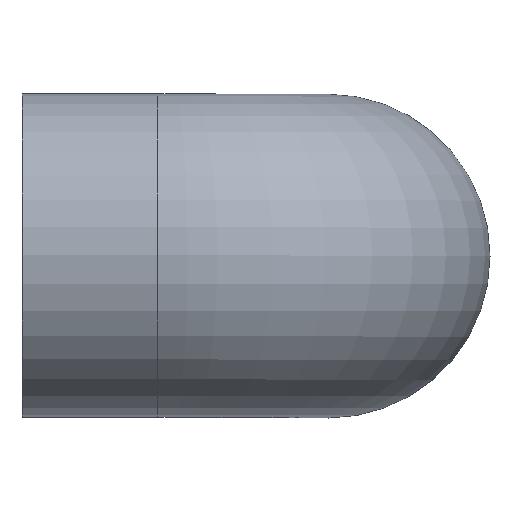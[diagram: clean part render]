
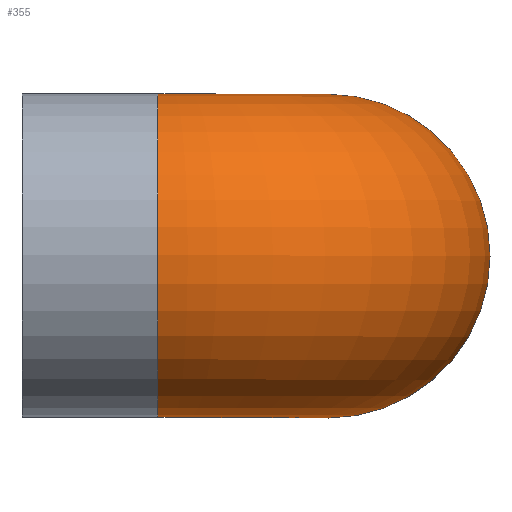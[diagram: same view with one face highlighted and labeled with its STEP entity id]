
A CAD part, top view. The second image highlights one B-rep face of the part: STEP entity #355.
In plain terms, the highlighted toroidal (fillet/blend) face has major radius 39.5 mm and minor radius 37.5 mm.
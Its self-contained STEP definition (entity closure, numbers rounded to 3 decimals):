
#19=FACE_BOUND('',#102,.T.);
#24=TOROIDAL_SURFACE('',#385,39.5,37.5);
#73=FACE_OUTER_BOUND('',#101,.T.);
#101=EDGE_LOOP('',(#309));
#102=EDGE_LOOP('',(#310));
#122=CIRCLE('',#384,37.5);
#123=CIRCLE('',#386,37.5);
#178=VERTEX_POINT('',#9430);
#179=VERTEX_POINT('',#9433);
#226=EDGE_CURVE('',#178,#178,#122,.T.);
#227=EDGE_CURVE('',#179,#179,#123,.T.);
#309=ORIENTED_EDGE('',*,*,#226,.F.);
#310=ORIENTED_EDGE('',*,*,#227,.T.);
#355=ADVANCED_FACE('',(#73,#19),#24,.T.);
#384=AXIS2_PLACEMENT_3D('',#9431,#447,#448);
#385=AXIS2_PLACEMENT_3D('',#9432,#449,#450);
#386=AXIS2_PLACEMENT_3D('',#9434,#451,#452);
#447=DIRECTION('center_axis',(-1.,0.,0.));
#448=DIRECTION('ref_axis',(0.,0.,-1.));
#449=DIRECTION('center_axis',(0.,-1.,0.));
#450=DIRECTION('ref_axis',(0.,0.,-1.));
#451=DIRECTION('center_axis',(0.,0.,1.));
#452=DIRECTION('ref_axis',(-1.,0.,0.));
#9430=CARTESIAN_POINT('',(-39.5,0.,108.5));
#9431=CARTESIAN_POINT('Origin',(-39.5,0.,71.));
#9432=CARTESIAN_POINT('Origin',(-39.5,0.,31.5));
#9433=CARTESIAN_POINT('',(37.5,0.,31.5));
#9434=CARTESIAN_POINT('Origin',(0.,0.,31.5));
